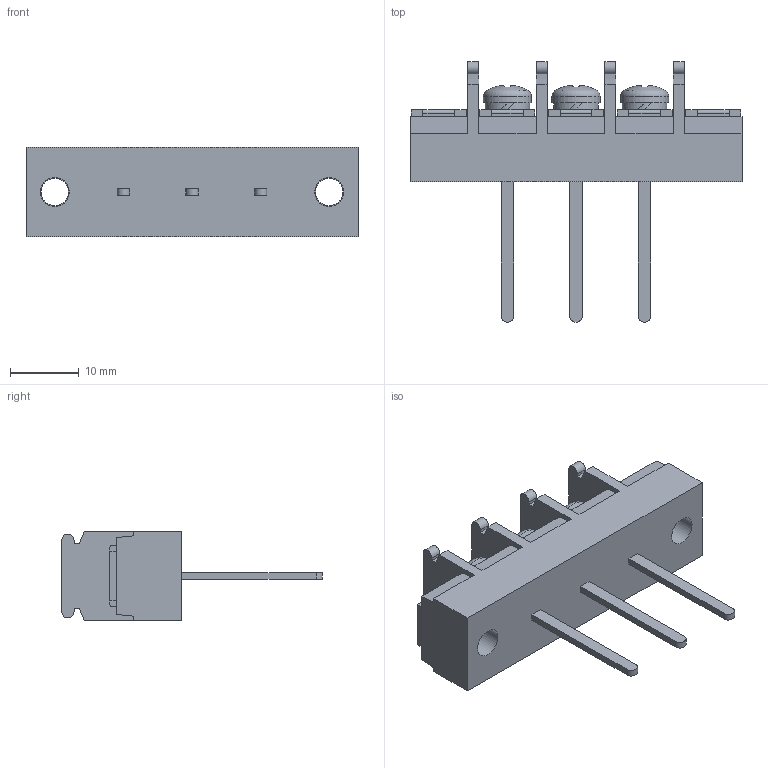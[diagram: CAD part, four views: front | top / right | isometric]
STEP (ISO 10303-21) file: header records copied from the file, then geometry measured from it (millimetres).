
FILE_DESCRIPTION(/* description */ ('Alibre Inc.'),/* implementation_level */ '2;1');
FILE_NAME(/* name */ 'export0',/* time_stamp */ '2015-10-17T19:30:18+09:00',/* author */ (''),/* organization */ (''),/* preprocessor_version */ 'ST-DEVELOPER v14',/* originating_system */ 'Alibre',/* authorisation */ '');
FILE_SCHEMA (('CONFIG_CONTROL_DESIGN'));
Length unit declared in the file: centimetre
Products named in the file (1): ID_1
Bounding box: 48.4 x 38 x 13 mm (x, y, z)
Volume: 6883.8 mm3; surface area: 4428.1 mm2
Topology: 1 solids, 17 shells, 629 faces, 1679 edges, 1117 vertices
Faces by surface type: plane 470, bspline 104, cylinder 34, cone 12, torus 6, sphere 3
Full cylindrical faces by diameter (mm): 4 x5, 4.2 x2, 6.5 x3, 7 x3
Entity records: 18956 total; most frequent: CARTESIAN_POINT 4409, ORIENTED_EDGE 3304, DIRECTION 2146, EDGE_CURVE 1652, VECTOR 1268, LINE 1268, VERTEX_POINT 1106, EDGE_LOOP 696
